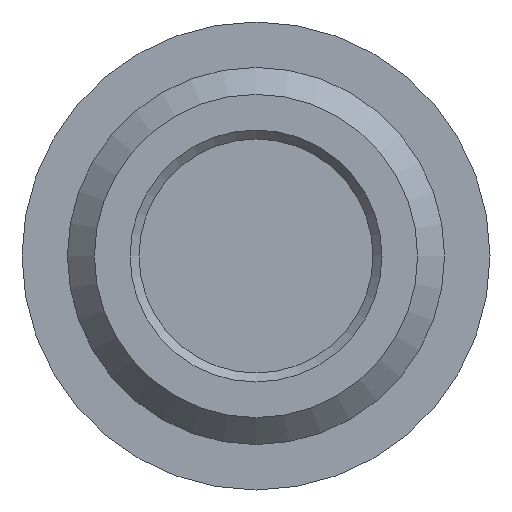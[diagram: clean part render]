
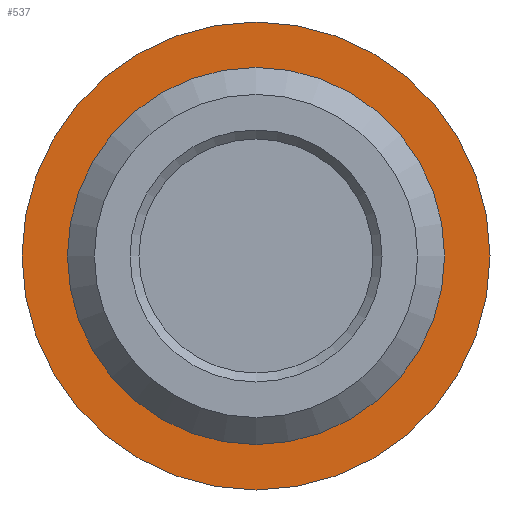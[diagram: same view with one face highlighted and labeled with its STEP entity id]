
A CAD part, front view. The second image highlights one B-rep face of the part: STEP entity #537.
In plain terms, the highlighted planar face has unit normal (0, -1, 0).
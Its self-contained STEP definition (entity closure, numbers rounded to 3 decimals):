
#537=ADVANCED_FACE('',(#937,#939),#941,.F.);
#937=FACE_BOUND('',#938,.T.);
#938=EDGE_LOOP('',(#1232));
#939=FACE_BOUND('',#940,.T.);
#940=EDGE_LOOP('',(#1233));
#941=PLANE('',#942);
#942=AXIS2_PLACEMENT_3D('',#943,#944,#945);
#943=CARTESIAN_POINT('',(0.,-2.,0.));
#944=DIRECTION('',(0.,1.,0.));
#945=DIRECTION('',(-1.,0.,0.));
#1232=ORIENTED_EDGE('',*,*,#1351,.F.);
#1233=ORIENTED_EDGE('',*,*,#1352,.F.);
#1351=EDGE_CURVE('',#1522,#1522,#1523,.T.);
#1352=EDGE_CURVE('',#1524,#1524,#1525,.F.);
#1522=VERTEX_POINT('',#2790);
#1523=CIRCLE('',#2791,13.);
#1524=VERTEX_POINT('',#2795);
#1525=CIRCLE('',#2796,10.);
#2790=CARTESIAN_POINT('',(-13.,-2.,0.));
#2791=AXIS2_PLACEMENT_3D('',#2792,#2793,#2794);
#2792=CARTESIAN_POINT('',(0.,-2.,0.));
#2793=DIRECTION('',(0.,1.,0.));
#2794=DIRECTION('',(-1.,0.,0.));
#2795=CARTESIAN_POINT('',(0.,-2.,-10.));
#2796=AXIS2_PLACEMENT_3D('',#2797,#2798,#2799);
#2797=CARTESIAN_POINT('',(0.,-2.,0.));
#2798=DIRECTION('',(0.,1.,0.));
#2799=DIRECTION('',(0.,0.,-1.));
